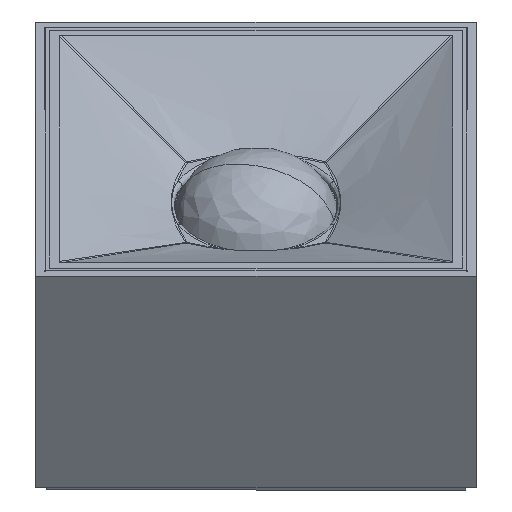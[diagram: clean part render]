
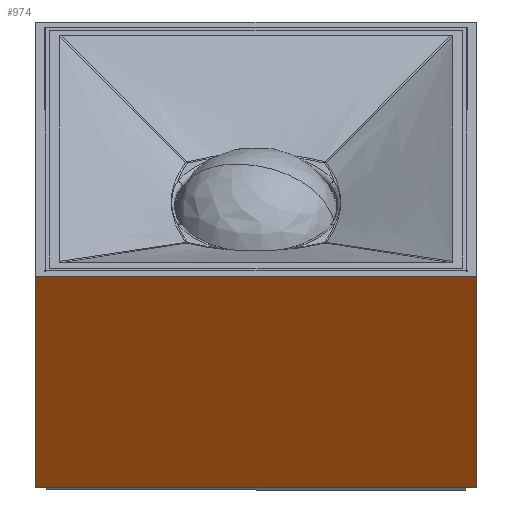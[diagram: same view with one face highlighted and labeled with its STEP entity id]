
A CAD part, isometric view. The second image highlights one B-rep face of the part: STEP entity #974.
In plain terms, the highlighted planar face has unit normal (-0.707, -0.707, 0).
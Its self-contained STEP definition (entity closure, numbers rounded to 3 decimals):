
#2=DIRECTION('',(0.707,-0.707,0.));
#3=VECTOR('',#2,85.);
#4=CARTESIAN_POINT('',(-60.104,0.,0.));
#5=LINE('',#4,#3);
#80=DIRECTION('',(0.,0.,1.));
#81=VECTOR('',#80,50.);
#82=CARTESIAN_POINT('',(-60.104,0.,0.));
#83=LINE('',#82,#81);
#92=DIRECTION('',(0.,0.,1.));
#93=VECTOR('',#92,50.);
#94=CARTESIAN_POINT('',(0.,-60.104,0.));
#95=LINE('',#94,#93);
#96=DIRECTION('',(0.707,-0.707,0.));
#97=VECTOR('',#96,85.);
#98=CARTESIAN_POINT('',(-60.104,0.,50.));
#99=LINE('',#98,#97);
#818=CARTESIAN_POINT('',(-60.104,0.,0.));
#819=CARTESIAN_POINT('',(0.,-60.104,0.));
#820=VERTEX_POINT('',#818);
#821=VERTEX_POINT('',#819);
#826=CARTESIAN_POINT('',(-60.104,0.,50.));
#827=CARTESIAN_POINT('',(0.,-60.104,50.));
#828=VERTEX_POINT('',#826);
#829=VERTEX_POINT('',#827);
#960=CARTESIAN_POINT('',(-60.104,0.,0.));
#961=DIRECTION('',(-0.707,-0.707,0.));
#962=DIRECTION('',(0.707,-0.707,0.));
#963=AXIS2_PLACEMENT_3D('',#960,#961,#962);
#964=PLANE('',#963);
#965=ORIENTED_EDGE('',*,*,#895,.F.);
#967=ORIENTED_EDGE('',*,*,#966,.T.);
#969=ORIENTED_EDGE('',*,*,#968,.T.);
#971=ORIENTED_EDGE('',*,*,#970,.F.);
#972=EDGE_LOOP('',(#965,#967,#969,#971));
#973=FACE_OUTER_BOUND('',#972,.F.);
#974=ADVANCED_FACE('',(#973),#964,.T.);
#895=EDGE_CURVE('',#820,#821,#5,.T.);
#966=EDGE_CURVE('',#820,#828,#83,.T.);
#968=EDGE_CURVE('',#828,#829,#99,.T.);
#970=EDGE_CURVE('',#821,#829,#95,.T.);
